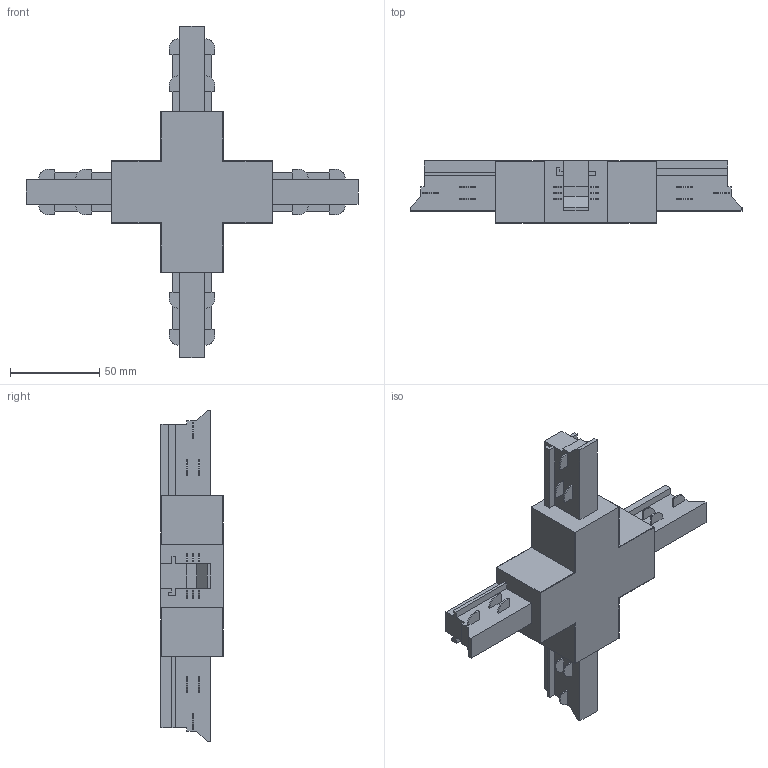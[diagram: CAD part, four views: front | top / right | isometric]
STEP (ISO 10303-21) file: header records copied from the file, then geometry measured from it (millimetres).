
FILE_DESCRIPTION (( 'STEP AP214' ), '1' );
FILE_NAME ('Kehui Track - X joiner.STEP', '2024-05-08T23:38:34', ( '' ), ( '' ), 'SwSTEP 2.0', 'SolidWorks 2021', '' );
FILE_SCHEMA (( 'AUTOMOTIVE_DESIGN' ));
Length unit declared in the file: millimetre
Products named in the file (1): Kehui Track - X joiner
Bounding box: 186 x 34.81 x 186 mm (x, y, z)
Volume: 245259.9 mm3; surface area: 45327.2 mm2
Topology: 31 solids, 31 shells, 282 faces, 652 edges, 432 vertices
Faces by surface type: plane 218, cylinder 48, bspline 16
Entity records: 8332 total; most frequent: CARTESIAN_POINT 1583, ORIENTED_EDGE 1304, DIRECTION 1258, EDGE_CURVE 652, LINE 532, VECTOR 532, VERTEX_POINT 432, AXIS2_PLACEMENT_3D 363
